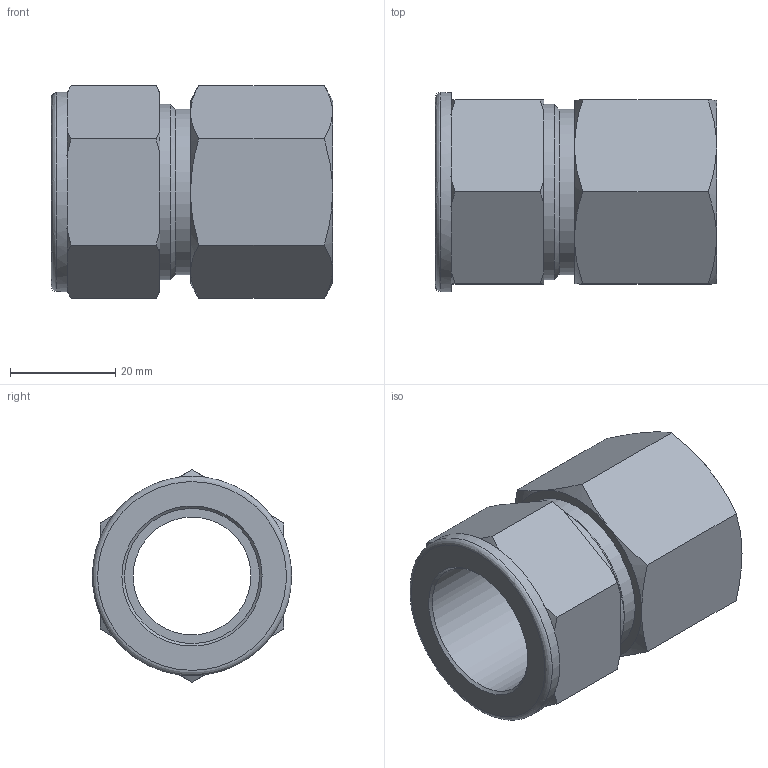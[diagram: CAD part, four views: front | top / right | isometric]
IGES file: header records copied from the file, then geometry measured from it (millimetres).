
Global section: file name: SFC-16-12N; native system: Autodesk Inventor 2016; preprocessor: unknown; author: DESIGNPC2; date: 20151022.092008; units: millimetre
Bounding box: 53.36 x 37.8 x 40.32 mm (x, y, z)
Volume: 29275.6 mm3; surface area: 12219.6 mm2
Topology: 1 solids, 1 shells, 58 faces, 149 edges, 96 vertices
Faces by surface type: bspline 58
